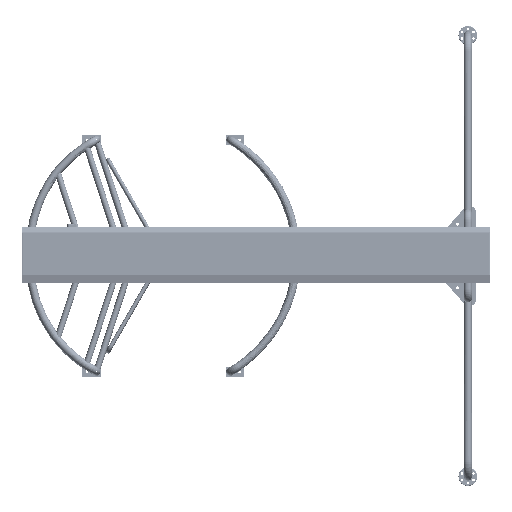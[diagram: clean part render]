
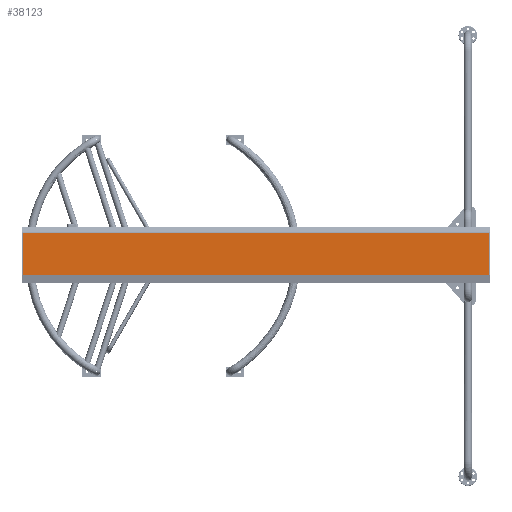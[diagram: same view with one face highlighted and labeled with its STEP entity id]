
A CAD part, top view. The second image highlights one B-rep face of the part: STEP entity #38123.
In plain terms, the highlighted planar face has unit normal (0, 0, 1) as drawn and (0, 1, 0) by its records, which use the part's own axes.
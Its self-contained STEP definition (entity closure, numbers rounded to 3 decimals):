
#8899=ORIENTED_EDGE('',*,*,#16895,.F.);
#8900=ORIENTED_EDGE('',*,*,#16896,.T.);
#8901=ORIENTED_EDGE('',*,*,#16897,.F.);
#8902=ORIENTED_EDGE('',*,*,#16879,.T.);
#8903=ORIENTED_EDGE('',*,*,#16885,.F.);
#8904=ORIENTED_EDGE('',*,*,#16898,.T.);
#8905=ORIENTED_EDGE('',*,*,#16886,.F.);
#8906=ORIENTED_EDGE('',*,*,#16877,.T.);
#16877=EDGE_CURVE('',#21199,#21203,#24639,.T.);
#16879=EDGE_CURVE('',#21201,#21198,#24640,.T.);
#16885=EDGE_CURVE('',#21206,#21198,#24645,.T.);
#16886=EDGE_CURVE('',#21199,#21207,#24646,.T.);
#16895=EDGE_CURVE('',#21211,#21203,#24655,.T.);
#16896=EDGE_CURVE('',#21211,#21212,#24656,.T.);
#16897=EDGE_CURVE('',#21201,#21212,#24657,.T.);
#16898=EDGE_CURVE('',#21206,#21207,#24658,.T.);
#21198=VERTEX_POINT('',#62529);
#21199=VERTEX_POINT('',#62533);
#21201=VERTEX_POINT('',#62542);
#21203=VERTEX_POINT('',#62548);
#21206=VERTEX_POINT('',#62562);
#21207=VERTEX_POINT('',#62566);
#21211=VERTEX_POINT('',#62581);
#21212=VERTEX_POINT('',#62585);
#24639=LINE('',#62547,#27210);
#24640=LINE('',#62551,#27211);
#24645=LINE('',#62563,#27216);
#24646=LINE('',#62565,#27217);
#24655=LINE('',#62582,#27226);
#24656=LINE('',#62584,#27227);
#24657=LINE('',#62586,#27228);
#24658=LINE('',#62587,#27229);
#27210=VECTOR('',#49096,1000.);
#27211=VECTOR('',#49101,1000.);
#27216=VECTOR('',#49114,1000.);
#27217=VECTOR('',#49117,1000.);
#27226=VECTOR('',#49132,1000.);
#27227=VECTOR('',#49135,1000.);
#27228=VECTOR('',#49136,1000.);
#27229=VECTOR('',#49137,1000.);
#29727=EDGE_LOOP('',(#8899,#8900,#8901,#8902,#8903,#8904,#8905,#8906));
#33461=FACE_BOUND('',#29727,.T.);
#36531=PLANE('',#42321);
#38123=ADVANCED_FACE('',(#33461),#36531,.T.);
#42321=AXIS2_PLACEMENT_3D('',#62583,#49133,#49134);
#49096=DIRECTION('',(0.,0.,1.));
#49101=DIRECTION('',(0.,0.,-1.));
#49114=DIRECTION('',(0.,0.,1.));
#49117=DIRECTION('',(0.,0.,-1.));
#49132=DIRECTION('',(0.,0.,-1.));
#49133=DIRECTION('',(0.,1.,0.));
#49134=DIRECTION('',(0.,0.,1.));
#49135=DIRECTION('',(1.,0.,0.));
#49136=DIRECTION('',(0.,0.,1.));
#49137=DIRECTION('',(-1.,0.,0.));
#62529=CARTESIAN_POINT('',(1246.5,114.688,-257.128));
#62533=CARTESIAN_POINT('',(-1246.5,114.688,-257.128));
#62542=CARTESIAN_POINT('',(1246.5,114.688,-28.511));
#62547=CARTESIAN_POINT('',(-1246.5,114.688,-257.128));
#62548=CARTESIAN_POINT('',(-1246.5,114.688,-28.511));
#62551=CARTESIAN_POINT('',(1246.5,114.688,-28.511));
#62562=CARTESIAN_POINT('',(1246.5,114.688,-257.13));
#62563=CARTESIAN_POINT('',(1246.5,114.688,-28.511));
#62565=CARTESIAN_POINT('',(-1246.5,114.688,-257.128));
#62566=CARTESIAN_POINT('',(-1246.5,114.688,-257.13));
#62581=CARTESIAN_POINT('',(-1246.5,114.688,-28.509));
#62582=CARTESIAN_POINT('',(-1246.5,114.688,-257.128));
#62583=CARTESIAN_POINT('',(-1248.5,114.688,-27.726));
#62584=CARTESIAN_POINT('',(-1248.5,114.688,-28.509));
#62585=CARTESIAN_POINT('',(1246.5,114.688,-28.509));
#62586=CARTESIAN_POINT('',(1246.5,114.688,-28.511));
#62587=CARTESIAN_POINT('',(1248.5,114.688,-257.13));
